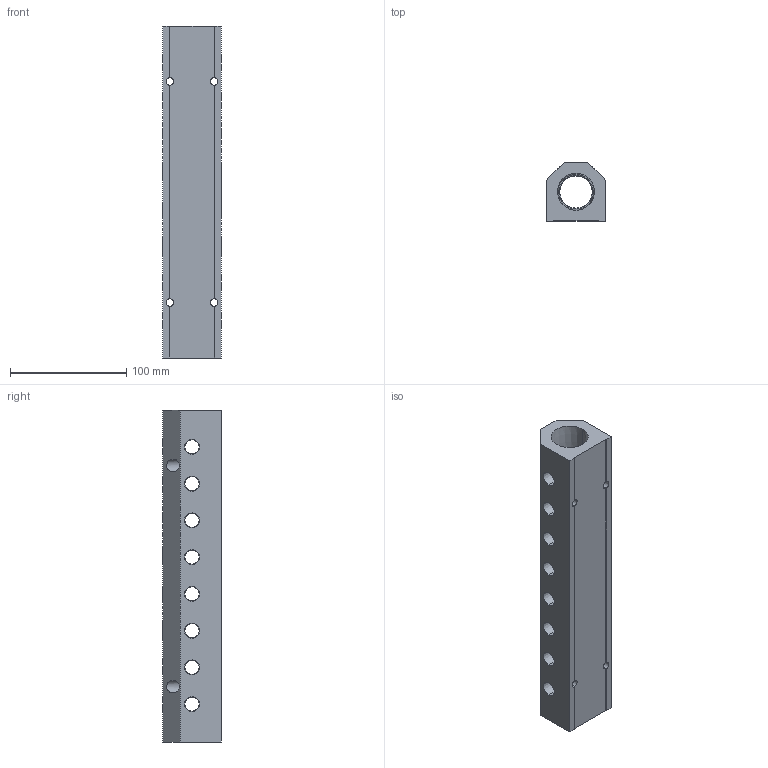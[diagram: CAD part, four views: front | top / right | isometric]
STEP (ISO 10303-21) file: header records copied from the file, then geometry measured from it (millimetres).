
FILE_DESCRIPTION (( 'STEP AP214' ), '1' );
FILE_NAME ('ALM8ACE-N4N16-286R.STEP', '2023-11-02T06:52:24', ( '' ), ( '' ), 'SwSTEP 2.0', 'SolidWorks 2020', '' );
FILE_SCHEMA (( 'AUTOMOTIVE_DESIGN' ));
Length unit declared in the file: millimetre
Products named in the file (1): ALM8ACE-N4N16-286R
Bounding box: 50.8 x 50.8 x 286 mm (x, y, z)
Volume: 439103.4 mm3; surface area: 90808.7 mm2
Topology: 1 solids, 1 shells, 360 faces, 966 edges, 628 vertices
Faces by surface type: plane 209, bspline 73, cone 56, cylinder 22
Entity records: 20781 total; most frequent: CARTESIAN_POINT 8892, ORIENTED_EDGE 1932, DIRECTION 1424, EDGE_CURVE 966, VECTOR 664, LINE 664, VERTEX_POINT 628, EDGE_LOOP 438
